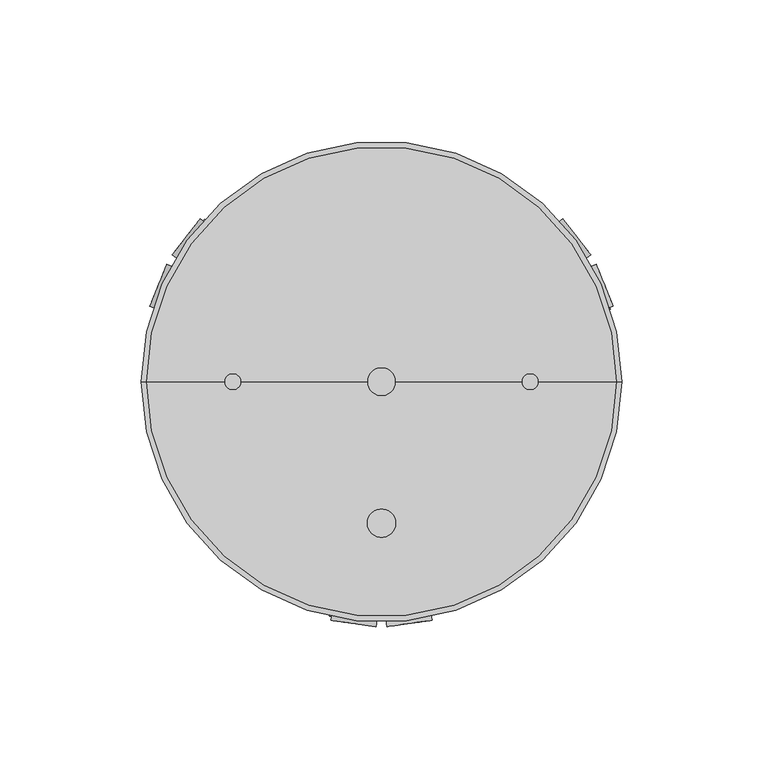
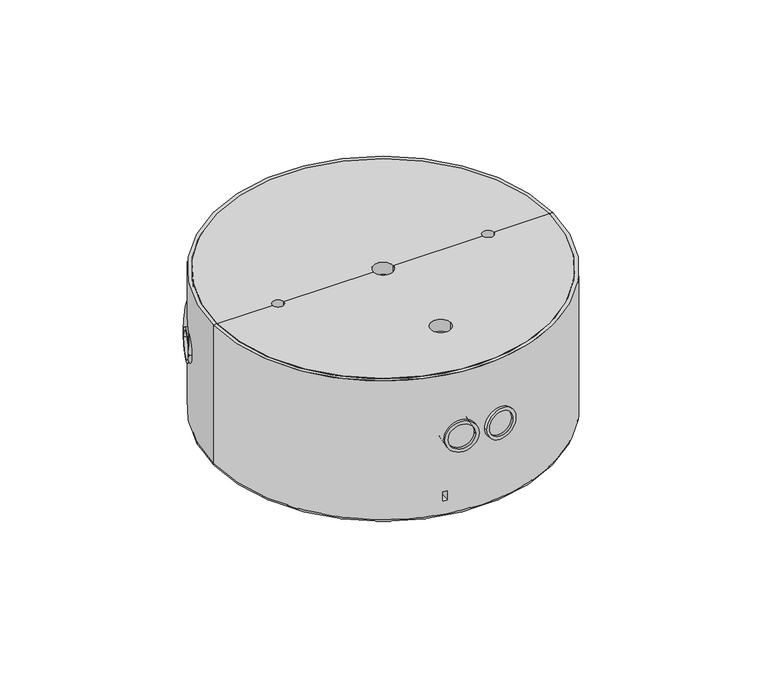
"""IFC4 building model written with IfcOpenShell, lengths in millimetres: proxy geometry, DL-A 10-165_T-EN54 : DL-A 10-165/T-EN54 SKD."""

from ifc_helpers import new_model, si_unit, point, frame, frame_2d, origin, place, context, project, spatial, polyline, circle_curve, ellipse_curve, trimmed, segment, composite_curve, outline, extrude, source, transform, mapped, element, save
from ifc_brep_helpers import plane_surface, cylinder_surface, revolved_surface, advanced_brep


def communication_devices_d300471b(model_context):
    return source(origin(), model_context, "Body", "SolidModel", [
        extrude(outline(composite_curve([segment(trimmed(circle_curve(frame_2d((0.0, 6.4)), 8.0), [point((0.0, 14.4))], [point((0.0, -1.6))], False, "CARTESIAN"), True, "CONTINUOUS"), segment(trimmed(circle_curve(frame_2d((0.0, 6.4)), 8.0), [point((0.0, -1.6))], [point((0.0, 14.4))], False, "CARTESIAN"), True, "CONTINUOUS")], self_intersect=False), holes=[composite_curve([segment(trimmed(circle_curve(frame_2d((0.0, 6.4)), 6.4), [point((0.0, 12.8))], [point((0.0, 0.0))], True, "CARTESIAN"), True, "CONTINUOUS"), segment(trimmed(circle_curve(frame_2d((0.0, 6.4)), 6.4), [point((0.0, 0.0))], [point((0.0, 12.8))], True, "CARTESIAN"), True, "CONTINUOUS")], self_intersect=False)]), frame((73.5583047, 25.1034264, 41.3589597), z_axis=(0.927183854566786, 0.3746065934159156, 0.0), x_axis=(0.0, 0.0, -1.0)), (0.0, 0.0, 1.0), 8.4103356),
        extrude(outline(composite_curve([segment(trimmed(circle_curve(frame_2d((0.0, 6.4)), 8.0), [point((0.0, 14.4))], [point((0.0, -1.6))], False, "CARTESIAN"), True, "CONTINUOUS"), segment(trimmed(circle_curve(frame_2d((0.0, 6.4)), 8.0), [point((0.0, -1.6))], [point((0.0, 14.4))], False, "CARTESIAN"), True, "CONTINUOUS")], self_intersect=False), holes=[composite_curve([segment(trimmed(circle_curve(frame_2d((0.0, 6.4)), 6.4), [point((0.0, 12.8))], [point((0.0, 0.0))], True, "CARTESIAN"), True, "CONTINUOUS"), segment(trimmed(circle_curve(frame_2d((0.0, 6.4)), 6.4), [point((0.0, 0.0))], [point((0.0, 12.8))], True, "CARTESIAN"), True, "CONTINUOUS")], self_intersect=False)]), frame((-58.5193574, 51.1516474, 41.3589597), z_axis=(-0.7880107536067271, 0.6156614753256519, 0.0), x_axis=(0.0, 0.0, -1.0)), (0.0, 0.0, 1.0), 8.4103356),
        extrude(outline(composite_curve([segment(trimmed(circle_curve(frame_2d((0.0, 6.4000001)), 8.0), [point((0.0, 14.4))], [point((0.0, -1.6))], False, "CARTESIAN"), True, "CONTINUOUS"), segment(trimmed(circle_curve(frame_2d((0.0, 6.4000001)), 8.0), [point((0.0, -1.6))], [point((0.0, 14.4))], False, "CARTESIAN"), True, "CONTINUOUS")], self_intersect=False), holes=[composite_curve([segment(trimmed(circle_curve(frame_2d((0.0, 6.4000001)), 6.4), [point((0.0, 12.8))], [point((0.0, 0.0))], True, "CARTESIAN"), True, "CONTINUOUS"), segment(trimmed(circle_curve(frame_2d((0.0, 6.4000001)), 6.4), [point((0.0, 0.0))], [point((0.0, 12.8))], True, "CARTESIAN"), True, "CONTINUOUS")], self_intersect=False)]), frame((-16.2094399, -84.5835606, 41.3589597), z_axis=(0.13917310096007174, 0.9902680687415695, 0.0), x_axis=(0.0, 0.0, 1.0)), (0.0, 0.0, 1.0), 8.4103356),
        extrude(outline(composite_curve([segment(trimmed(circle_curve(frame_2d((0.0, 6.4)), 8.0), [point((0.0, 14.4))], [point((0.0, -1.6))], False, "CARTESIAN"), True, "CONTINUOUS"), segment(trimmed(circle_curve(frame_2d((0.0, 6.4)), 8.0), [point((0.0, -1.6))], [point((0.0, 14.4))], False, "CARTESIAN"), True, "CONTINUOUS")], self_intersect=False), holes=[composite_curve([segment(trimmed(circle_curve(frame_2d((0.0, 6.4)), 6.4), [point((0.0, 12.8))], [point((0.0, 0.0))], True, "CARTESIAN"), True, "CONTINUOUS"), segment(trimmed(circle_curve(frame_2d((0.0, 6.4)), 6.4), [point((0.0, 0.0))], [point((0.0, 12.8))], True, "CARTESIAN"), True, "CONTINUOUS")], self_intersect=False)]), frame((58.5193574, 51.1516474, 41.3589597), z_axis=(0.7880107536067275, 0.6156614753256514, 0.0), x_axis=(0.0, 0.0, 1.0)), (0.0, 0.0, 1.0), 8.4103356),
        extrude(outline(composite_curve([segment(trimmed(circle_curve(frame_2d((0.0, 6.4)), 8.0), [point((0.0, 14.4))], [point((0.0, -1.6))], False, "CARTESIAN"), True, "CONTINUOUS"), segment(trimmed(circle_curve(frame_2d((0.0, 6.4)), 8.0), [point((0.0, -1.6))], [point((0.0, 14.4))], False, "CARTESIAN"), True, "CONTINUOUS")], self_intersect=False), holes=[composite_curve([segment(trimmed(circle_curve(frame_2d((0.0, 6.4)), 6.4), [point((0.0, 12.8))], [point((0.0, 0.0))], True, "CARTESIAN"), True, "CONTINUOUS"), segment(trimmed(circle_curve(frame_2d((0.0, 6.4)), 6.4), [point((0.0, 0.0))], [point((0.0, 12.8))], True, "CARTESIAN"), True, "CONTINUOUS")], self_intersect=False)]), frame((-73.5583047, 25.1034264, 41.3589597), z_axis=(-0.9271838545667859, 0.3746065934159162, 0.0), x_axis=(0.0, 0.0, 1.0)), (0.0, 0.0, 1.0), 8.4103356),
        extrude(outline(composite_curve([segment(trimmed(circle_curve(frame_2d((0.0, 6.4000001)), 8.0), [point((0.0, 14.4))], [point((0.0, -1.6))], False, "CARTESIAN"), True, "CONTINUOUS"), segment(trimmed(circle_curve(frame_2d((0.0, 6.4000001)), 8.0), [point((0.0, -1.6))], [point((0.0, 14.4))], False, "CARTESIAN"), True, "CONTINUOUS")], self_intersect=False), holes=[composite_curve([segment(trimmed(circle_curve(frame_2d((0.0, 6.4000001)), 6.4), [point((0.0, 12.8))], [point((0.0, 0.0))], True, "CARTESIAN"), True, "CONTINUOUS"), segment(trimmed(circle_curve(frame_2d((0.0, 6.4000001)), 6.4), [point((0.0, 0.0))], [point((0.0, 12.8))], True, "CARTESIAN"), True, "CONTINUOUS")], self_intersect=False)]), frame((16.2094399, -84.5835606, 41.3589597), z_axis=(-0.13917310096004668, 0.990268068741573, 0.0), x_axis=(0.0, 0.0, -1.0)), (0.0, 0.0, 1.0), 8.4103356),
        advanced_brep(
        [(83.1008845, 0.0, 75.0), (-83.1008845, 0.0, 75.0), (-55.5276636, 0.0, 75.0), (-49.6947731, 0.0, 75.0), (-5.0, 0.0, 75.0), (5.0, 0.0, 75.0), (49.6947731, 0.0, 75.0), (55.5276636, 0.0, 75.0), (5.0, -50.0, 75.0), (-5.0, -50.0, 75.0), (83.1008845, 0.0, 25.0), (-83.1008845, 0.0, 25.0), (0.0, 0.0, 25.0), (-5.0, 0.0, 68.563781), (5.0, 0.0, 68.563781), (-5.0, -50.0, 68.563781), (5.0, -50.0, 68.563781), (-55.5276636, 0.0, 68.563781), (-49.6947731, 0.0, 68.563781), (55.5276636, 0.0, 68.563781), (49.6947731, 0.0, 68.563781)],
        [
            (0, 1, circle_curve(frame((0.0, 0.0, 75.0), z_axis=(0.0, 0.0, 1.0), x_axis=(-1.0, 0.0, 0.0)), 83.1008845)),
            (1, 2),
            (2, 3, circle_curve(frame((-52.6112183, 0.0, 75.0), z_axis=(0.0, 0.0, -1.0), x_axis=(1.0, 0.0, 0.0)), 2.9164453)),
            (3, 4),
            (4, 5, circle_curve(frame((0.0, 0.0, 75.0), z_axis=(0.0, 0.0, -1.0), x_axis=(1.0, 0.0, 0.0)), 5.0)),
            (5, 6),
            (6, 7, circle_curve(frame((52.6112183, 0.0, 75.0), z_axis=(0.0, 0.0, -1.0), x_axis=(-1.0, 0.0, 0.0)), 2.9164453)),
            (7, 0),
            (1, 0, circle_curve(frame((0.0, 0.0, 75.0), z_axis=(0.0, 0.0, 1.0), x_axis=(-1.0, 0.0, 0.0)), 83.1008845)),
            (7, 6, circle_curve(frame((52.6112183, 0.0, 75.0), z_axis=(0.0, 0.0, -1.0), x_axis=(-1.0, 0.0, 0.0)), 2.9164453)),
            (5, 4, circle_curve(frame((0.0, 0.0, 75.0), z_axis=(0.0, 0.0, -1.0), x_axis=(1.0, 0.0, 0.0)), 5.0)),
            (3, 2, circle_curve(frame((-52.6112183, 0.0, 75.0), z_axis=(0.0, 0.0, -1.0), x_axis=(1.0, 0.0, 0.0)), 2.9164453)),
            (8, 9, circle_curve(frame((0.0, -50.0, 75.0), z_axis=(0.0, 0.0, -1.0), x_axis=(1.0, 0.0, 0.0)), 5.0)),
            (9, 8, circle_curve(frame((0.0, -50.0, 75.0), z_axis=(0.0, 0.0, -1.0), x_axis=(1.0, 0.0, 0.0)), 5.0)),
            (0, 10),
            (10, 11, circle_curve(frame((0.0, 0.0, 25.0), z_axis=(0.0, 0.0, 1.0), x_axis=(-1.0, 0.0, 0.0)), 83.1008845)),
            (11, 1),
            (11, 10, circle_curve(frame((0.0, 0.0, 25.0), z_axis=(0.0, 0.0, 1.0), x_axis=(-1.0, 0.0, 0.0)), 83.1008845)),
            (10, 12),
            (12, 11),
            (13, 14, circle_curve(frame((0.0, 0.0, 68.563781), z_axis=(0.0, 0.0, 1.0), x_axis=(1.0, 0.0, 0.0)), 5.0)),
            (14, 13, circle_curve(frame((0.0, 0.0, 68.563781), z_axis=(0.0, 0.0, 1.0), x_axis=(1.0, 0.0, 0.0)), 5.0)),
            (15, 16, circle_curve(frame((0.0, -50.0, 68.563781), z_axis=(0.0, 0.0, 1.0), x_axis=(1.0, 0.0, 0.0)), 5.0)),
            (16, 15, circle_curve(frame((0.0, -50.0, 68.563781), z_axis=(0.0, 0.0, 1.0), x_axis=(1.0, 0.0, 0.0)), 5.0)),
            (17, 18, circle_curve(frame((-52.6112183, 0.0, 68.563781), z_axis=(0.0, 0.0, 1.0), x_axis=(1.0, 0.0, 0.0)), 2.9164453)),
            (18, 17, circle_curve(frame((-52.6112183, 0.0, 68.563781), z_axis=(0.0, 0.0, 1.0), x_axis=(1.0, 0.0, 0.0)), 2.9164453)),
            (19, 20, circle_curve(frame((52.6112183, 0.0, 68.563781), z_axis=(0.0, 0.0, 1.0), x_axis=(-1.0, 0.0, 0.0)), 2.9164453)),
            (20, 19, circle_curve(frame((52.6112183, 0.0, 68.563781), z_axis=(0.0, 0.0, 1.0), x_axis=(-1.0, 0.0, 0.0)), 2.9164453)),
            (13, 4),
            (5, 14),
            (15, 9),
            (8, 16),
            (17, 2),
            (3, 18),
            (19, 7),
            (6, 20),
        ],
        [
            plane_surface(frame((0.0, 0.0, 75.0), z_axis=(0.0, 0.0, 1.0), x_axis=(-1.0, 0.0, 0.0))),
            cylinder_surface(frame((0.0, 0.0, 60.0), z_axis=(0.0, 0.0, -1.0), x_axis=(-1.0, 0.0, 0.0)), 83.1008845),
            plane_surface(frame((0.0, 0.0, 25.0), z_axis=(0.0, 0.0, -1.0), x_axis=(-1.0, 0.0, 0.0))),
            plane_surface(frame((5.0, 0.0, 68.563781), z_axis=(0.0, 0.0, 1.0), x_axis=(0.0, -1.0, 0.0))),
            revolved_surface(polyline([(5.0, 0.0, 75.0), (5.0, 0.0, 68.563781)]), (0.0, 0.0, 68.563781), (0.0, 0.0, 1.0)),
            revolved_surface(polyline([(5.0, -50.0, 75.0), (5.0, -50.0, 68.563781)]), (0.0, -50.0, 0.0), (0.0, 0.0, 1.0)),
            revolved_surface(polyline([(-49.694773, 0.0, 75.0), (-49.694773, 0.0, 68.563781)]), (-52.6112183, 0.0, 0.0), (0.0, 0.0, 1.0)),
            revolved_surface(polyline([(49.694773, 0.0, 75.0), (49.694773, 0.0, 68.563781)]), (52.6112183, 0.0, 0.0), (0.0, 0.0, 1.0)),
        ],
        [
            (0, [[1, 2, 3, 4, 5, 6, 7, 8]]),
            (0, [[9, -8, 10, -6, 11, -4, 12, -2], [13, 14]]),
            (1, [[-1, 15, 16, 17]]),
            (1, [[-9, -17, 18, -15]]),
            (2, [[-16, 19, 20]]),
            (2, [[-18, -20, -19]]),
            (3, [[21, 22]]),
            (3, [[23, 24]]),
            (3, [[25, 26]]),
            (3, [[27, 28]]),
            (4, [[-21, 29, -11, 30]]),
            (4, [[-22, -30, -5, -29]]),
            (5, [[-23, 31, -13, 32]]),
            (5, [[-24, -32, -14, -31]]),
            (6, [[-25, 33, -12, 34]]),
            (6, [[-26, -34, -3, -33]]),
            (7, [[-27, 35, -7, 36]]),
            (7, [[-28, -36, -10, -35]]),
        ],
    ),
        advanced_brep(
        [(0.0, 0.0, 0.0), (-69.0225418, 0.0, 0.0), (69.0225418, 0.0, 0.0), (-70.0, 0.0, 0.9774582), (70.0, 0.0, 0.9774582), (-70.0, 0.0, 15.0), (70.0, 0.0, 15.0), (0.0, 0.0, 15.0)],
        [
            (0, 1),
            (1, 2, circle_curve(frame((0.0, 0.0, 0.0), z_axis=(0.0, 0.0, -1.0), x_axis=(-1.0, 0.0, 0.0)), 69.0225418)),
            (2, 0),
            (2, 1, circle_curve(frame((0.0, 0.0, 0.0), z_axis=(0.0, 0.0, -1.0), x_axis=(-1.0, 0.0, 0.0)), 69.0225418)),
            (1, 3, circle_curve(frame((-69.0225418, 0.0, 0.9774582), z_axis=(0.0, 1.0, 0.0), x_axis=(1.0, 0.0, 0.0)), 0.9774582)),
            (3, 4, circle_curve(frame((0.0, 0.0, 0.9774582), z_axis=(0.0, 0.0, -1.0), x_axis=(-1.0, 0.0, 0.0)), 70.0)),
            (4, 2, circle_curve(frame((69.0225418, 0.0, 0.9774582), z_axis=(0.0, 1.0, 0.0), x_axis=(-1.0, 0.0, 0.0)), 0.9774582)),
            (4, 3, circle_curve(frame((0.0, 0.0, 0.9774582), z_axis=(0.0, 0.0, -1.0), x_axis=(-1.0, 0.0, 0.0)), 70.0)),
            (3, 5),
            (5, 6, circle_curve(frame((0.0, 0.0, 15.0), z_axis=(0.0, 0.0, -1.0), x_axis=(-1.0, 0.0, 0.0)), 70.0)),
            (6, 4),
            (6, 5, circle_curve(frame((0.0, 0.0, 15.0), z_axis=(0.0, 0.0, -1.0), x_axis=(-1.0, 0.0, 0.0)), 70.0)),
            (5, 7),
            (7, 6),
        ],
        [
            plane_surface(frame((0.0, 0.0, 0.0), z_axis=(0.0, 0.0, -1.0), x_axis=(-1.0, 0.0, 0.0))),
            revolved_surface(trimmed(ellipse_curve(frame((-69.0225418, 0.0, 0.9774582), z_axis=(0.0, -1.0, 0.0), x_axis=(1.0, 0.0, 0.0)), 0.9774582, 0.9774582), [point((-70.0, 0.0, 0.9774582))], [point((-69.0225418, 0.0, 0.0))], True, "CARTESIAN"), (0.0, 0.0, 7.5), (0.0, 0.0, -1.0)),
            cylinder_surface(frame((0.0, 0.0, 7.5), z_axis=(0.0, 0.0, -1.0), x_axis=(-1.0, 0.0, 0.0)), 70.0),
            plane_surface(frame((0.0, 0.0, 15.0), z_axis=(0.0, 0.0, 1.0), x_axis=(-1.0, 0.0, 0.0))),
        ],
        [
            (0, [[1, 2, 3]]),
            (0, [[-3, 4, -1]]),
            (1, [[-2, 5, 6, 7]]),
            (1, [[-4, -7, 8, -5]]),
            (2, [[-6, 9, 10, 11]]),
            (2, [[-8, -11, 12, -9]]),
            (3, [[-10, 13, 14]]),
            (3, [[-12, -14, -13]]),
        ],
    ),
        advanced_brep(
        [(71.0, 0.0, 0.0), (-71.0, 0.0, 0.0), (-83.5, 0.0, 0.0), (83.5, 0.0, 0.0), (-85.0, 0.0, 1.5), (85.0, 0.0, 1.5), (-85.0, 0.0, 75.0), (85.0, 0.0, 75.0), (-62.669585, 57.424064, 13.619508), (-64.399204, 55.4774055, 13.619508), (-64.399204, 55.4774055, 8.619508), (-62.669585, 57.424064, 8.619508), (81.0654907, 25.5614206, 13.619508), (80.2444445, 28.0326439, 13.619508), (80.2444445, 28.0326439, 8.619508), (81.0654907, 25.5614206, 8.619508), (-18.3959057, -82.9854846, 13.619508), (-15.8452405, -83.5100494, 13.619508), (-15.8452405, -83.5100494, 8.619508), (-18.3959057, -82.9854846, 8.619508), (-83.1008845, 0.0, 75.0), (83.1008845, 0.0, 75.0), (0.0, 0.0, 15.0), (-70.0, 0.0, 15.0), (70.0, 0.0, 15.0), (-70.0, 0.0, 1.0), (70.0, 0.0, 1.0), (83.1008845, 0.0, 25.0), (-83.1008845, 0.0, 25.0), (0.0, 0.0, 25.0), (-15.8452405, -73.2496508, 13.619508), (-18.3959057, -73.2496508, 13.619508), (-18.3959057, -73.2496508, 8.619508), (-15.8452405, -73.2496508, 8.619508), (-55.5134381, 50.3472062, 13.619508), (-54.2381056, 52.5561471, 13.619508), (-54.2381056, 52.5561471, 8.619508), (-55.5134381, 50.3472062, 8.619508), (71.3586787, 22.9024446, 13.619508), (72.6340113, 20.6935037, 13.619508), (72.6340113, 20.6935037, 8.619508), (71.3586787, 22.9024446, 8.619508)],
        [
            (0, 1, circle_curve(frame((0.0, 0.0, 0.0), z_axis=(0.0, 0.0, 1.0), x_axis=(-1.0, 0.0, 0.0)), 71.0)),
            (1, 2),
            (2, 3, circle_curve(frame((0.0, 0.0, 0.0), z_axis=(0.0, 0.0, -1.0), x_axis=(-1.0, 0.0, 0.0)), 83.5)),
            (3, 0),
            (1, 0, circle_curve(frame((0.0, 0.0, 0.0), z_axis=(0.0, 0.0, 1.0), x_axis=(-1.0, 0.0, 0.0)), 71.0)),
            (3, 2, circle_curve(frame((0.0, 0.0, 0.0), z_axis=(0.0, 0.0, -1.0), x_axis=(-1.0, 0.0, 0.0)), 83.5)),
            (2, 4, circle_curve(frame((-83.5, 0.0, 1.5), z_axis=(0.0, 1.0, 0.0), x_axis=(1.0, 0.0, 0.0)), 1.5)),
            (4, 5, circle_curve(frame((0.0, 0.0, 1.5), z_axis=(0.0, 0.0, -1.0), x_axis=(-1.0, 0.0, 0.0)), 85.0)),
            (5, 3, circle_curve(frame((83.5, 0.0, 1.5), z_axis=(0.0, 1.0, 0.0), x_axis=(-1.0, 0.0, 0.0)), 1.5)),
            (5, 4, circle_curve(frame((0.0, 0.0, 1.5), z_axis=(0.0, 0.0, -1.0), x_axis=(-1.0, 0.0, 0.0)), 85.0)),
            (4, 6),
            (6, 7, circle_curve(frame((0.0, 0.0, 75.0), z_axis=(0.0, 0.0, -1.0), x_axis=(-1.0, 0.0, 0.0)), 85.0)),
            (7, 5),
            (8, 9, circle_curve(frame((0.0, 0.0, 13.619508), z_axis=(0.0, 0.0, 1.0), x_axis=(-1.0, 0.0, 0.0)), 85.0)),
            (9, 10),
            (10, 11, circle_curve(frame((0.0, 0.0, 8.619508), z_axis=(0.0, 0.0, -1.0), x_axis=(-1.0, 0.0, 0.0)), 85.0)),
            (11, 8),
            (12, 13, circle_curve(frame((0.0, 0.0, 13.619508), z_axis=(0.0, 0.0, 1.0), x_axis=(-1.0, 0.0, 0.0)), 85.0)),
            (13, 14),
            (14, 15, circle_curve(frame((0.0, 0.0, 8.619508), z_axis=(0.0, 0.0, -1.0), x_axis=(-1.0, 0.0, 0.0)), 85.0)),
            (15, 12),
            (7, 6, circle_curve(frame((0.0, 0.0, 75.0), z_axis=(0.0, 0.0, -1.0), x_axis=(-1.0, 0.0, 0.0)), 85.0)),
            (16, 17, circle_curve(frame((0.0, 0.0, 13.619508), z_axis=(0.0, 0.0, 1.0), x_axis=(-1.0, 0.0, 0.0)), 85.0)),
            (17, 18),
            (18, 19, circle_curve(frame((0.0, 0.0, 8.619508), z_axis=(0.0, 0.0, -1.0), x_axis=(-1.0, 0.0, 0.0)), 85.0)),
            (19, 16),
            (6, 20),
            (20, 21, circle_curve(frame((0.0, 0.0, 75.0), z_axis=(0.0, 0.0, -1.0), x_axis=(-1.0, 0.0, 0.0)), 83.1008845)),
            (21, 7),
            (21, 20, circle_curve(frame((0.0, 0.0, 75.0), z_axis=(0.0, 0.0, -1.0), x_axis=(-1.0, 0.0, 0.0)), 83.1008845)),
            (22, 23),
            (23, 24, circle_curve(frame((0.0, 0.0, 15.0), z_axis=(0.0, 0.0, -1.0), x_axis=(-1.0, 0.0, 0.0)), 70.0)),
            (24, 22),
            (24, 23, circle_curve(frame((0.0, 0.0, 15.0), z_axis=(0.0, 0.0, -1.0), x_axis=(-1.0, 0.0, 0.0)), 70.0)),
            (23, 25),
            (25, 26, circle_curve(frame((0.0, 0.0, 1.0), z_axis=(0.0, 0.0, -1.0), x_axis=(-1.0, 0.0, 0.0)), 70.0)),
            (26, 24),
            (26, 25, circle_curve(frame((0.0, 0.0, 1.0), z_axis=(0.0, 0.0, -1.0), x_axis=(-1.0, 0.0, 0.0)), 70.0)),
            (0, 26, circle_curve(frame((71.0, 0.0, 1.0), z_axis=(0.0, 1.0, 0.0), x_axis=(-1.0, 0.0, 0.0)), 1.0)),
            (25, 1, circle_curve(frame((-71.0, 0.0, 1.0), z_axis=(0.0, 1.0, 0.0), x_axis=(1.0, 0.0, 0.0)), 1.0)),
            (27, 28, circle_curve(frame((0.0, 0.0, 25.0), z_axis=(0.0, 0.0, 1.0), x_axis=(-1.0, 0.0, 0.0)), 83.1008845)),
            (28, 29),
            (29, 27),
            (28, 27, circle_curve(frame((0.0, 0.0, 25.0), z_axis=(0.0, 0.0, 1.0), x_axis=(-1.0, 0.0, 0.0)), 83.1008845)),
            (20, 28),
            (27, 21),
            (30, 31),
            (31, 32),
            (32, 33),
            (33, 30),
            (30, 17),
            (16, 31),
            (19, 32),
            (18, 33),
            (34, 35),
            (35, 36),
            (36, 37),
            (37, 34),
            (34, 9),
            (8, 35),
            (11, 36),
            (10, 37),
            (38, 39),
            (39, 40),
            (40, 41),
            (41, 38),
            (38, 13),
            (12, 39),
            (15, 40),
            (14, 41),
        ],
        [
            plane_surface(frame((0.0, 0.0, 0.0), z_axis=(0.0, 0.0, -1.0), x_axis=(-1.0, 0.0, 0.0))),
            revolved_surface(trimmed(ellipse_curve(frame((-83.5, 0.0, 1.5), z_axis=(0.0, -1.0, 0.0), x_axis=(1.0, 0.0, 0.0)), 1.5, 1.5), [point((-85.0, 0.0, 1.5))], [point((-83.5, 0.0, 0.0))], True, "CARTESIAN"), (0.0, 0.0, 10.0), (0.0, 0.0, -1.0)),
            cylinder_surface(frame((0.0, 0.0, 10.0), z_axis=(0.0, 0.0, -1.0), x_axis=(-1.0, 0.0, 0.0)), 85.0),
            plane_surface(frame((0.0, 0.0, 75.0), z_axis=(0.0, 0.0, 1.0), x_axis=(-1.0, 0.0, 0.0))),
            plane_surface(frame((0.0, 0.0, 15.0), z_axis=(0.0, 0.0, -1.0), x_axis=(-1.0, 0.0, 0.0))),
            revolved_surface(polyline([(-70.0, 0.0, 1.0), (-70.0, 0.0, 15.0)]), (0.0, 0.0, 10.0), (0.0, 0.0, -1.0)),
            revolved_surface(trimmed(ellipse_curve(frame((-71.0, 0.0, 1.0), z_axis=(0.0, -1.0, 0.0), x_axis=(1.0, 0.0, 0.0)), 1.0, 1.0), [point((-71.0, 0.0, 0.0))], [point((-70.0, 0.0, 1.0))], True, "CARTESIAN"), (0.0, 0.0, 10.0), (0.0, 0.0, -1.0)),
            plane_surface(frame((0.0, 0.0, 25.0), z_axis=(0.0, 0.0, 1.0), x_axis=(-1.0, 0.0, 0.0))),
            revolved_surface(polyline([(-83.1008845, 0.0, 25.0), (-83.1008845, 0.0, 75.0)]), (0.0, 0.0, 10.0), (0.0, 0.0, -1.0)),
            plane_surface(frame((-18.3959057, -73.2496508, 13.619508), z_axis=(0.0, -1.0, 0.0), x_axis=(1.0, 0.0, 0.0))),
            plane_surface(frame((-15.8452405, -88.4682271, 13.619508), z_axis=(0.0, 0.0, -1.0), x_axis=(0.0, 1.0, 0.0))),
            plane_surface(frame((-18.3959057, -88.4682271, 13.619508), z_axis=(1.0, 0.0, 0.0), x_axis=(0.0, 1.0, 0.0))),
            plane_surface(frame((-18.3959057, -88.4682271, 8.619508), z_axis=(0.0, 0.0, 1.0), x_axis=(0.0, 1.0, 0.0))),
            plane_surface(frame((-15.8452405, -88.4682271, 8.619508), z_axis=(-1.0, 0.0, 0.0), x_axis=(0.0, 1.0, 0.0))),
            plane_surface(frame((-54.2381056, 52.5561471, 13.619508), z_axis=(-0.8660254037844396, 0.49999999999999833, 0.0), x_axis=(-0.49999999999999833, -0.8660254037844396, 0.0))),
            plane_surface(frame((-68.6931118, 57.9564944, 13.619508), z_axis=(0.0, 0.0, -1.0), x_axis=(0.8660254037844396, -0.4999999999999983, 0.0))),
            plane_surface(frame((-67.4177792, 60.1654352, 13.619508), z_axis=(-0.4999999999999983, -0.8660254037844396, 0.0), x_axis=(0.8660254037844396, -0.4999999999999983, 0.0))),
            plane_surface(frame((-67.4177792, 60.1654352, 8.619508), z_axis=(0.0, 0.0, 1.0), x_axis=(0.8660254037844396, -0.4999999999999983, 0.0))),
            plane_surface(frame((-68.6931118, 57.9564944, 8.619508), z_axis=(0.4999999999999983, 0.8660254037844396, 0.0), x_axis=(0.8660254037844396, -0.4999999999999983, 0.0))),
            plane_surface(frame((72.6340113, 20.6935037, 13.619508), z_axis=(0.8660254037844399, 0.49999999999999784, 0.0), x_axis=(-0.49999999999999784, 0.8660254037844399, 0.0))),
            plane_surface(frame((84.5383523, 30.5117327, 13.619508), z_axis=(0.0, 0.0, -1.0), x_axis=(-0.86602540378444, -0.4999999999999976, 0.0))),
            plane_surface(frame((85.8136849, 28.3027919, 13.619508), z_axis=(-0.49999999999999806, 0.8660254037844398, 0.0), x_axis=(-0.8660254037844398, -0.49999999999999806, 0.0))),
            plane_surface(frame((85.8136849, 28.3027919, 8.619508), z_axis=(0.0, 0.0, 1.0), x_axis=(-0.8660254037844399, -0.49999999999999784, 0.0))),
            plane_surface(frame((84.5383523, 30.5117327, 8.619508), z_axis=(0.49999999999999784, -0.8660254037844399, 0.0), x_axis=(-0.8660254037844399, -0.49999999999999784, 0.0))),
        ],
        [
            (0, [[1, 2, 3, 4]]),
            (0, [[-2, 5, -4, 6]]),
            (1, [[-3, 7, 8, 9]]),
            (1, [[-6, -9, 10, -7]]),
            (2, [[-8, 11, 12, 13], [14, 15, 16, 17], [18, 19, 20, 21]]),
            (2, [[-10, -13, 22, -11], [23, 24, 25, 26]]),
            (3, [[-12, 27, 28, 29]]),
            (3, [[-22, -29, 30, -27]]),
            (4, [[31, 32, 33]]),
            (4, [[-31, -33, 34]]),
            (5, [[-32, 35, 36, 37]]),
            (5, [[-34, -37, 38, -35]]),
            (6, [[-1, 39, -36, 40]]),
            (6, [[-5, -40, -38, -39]]),
            (7, [[41, 42, 43]]),
            (7, [[-42, 44, -43]]),
            (8, [[-28, 45, -41, 46]]),
            (8, [[-30, -46, -44, -45]]),
            (9, [[47, 48, 49, 50]]),
            (10, [[-47, 51, -23, 52]]),
            (11, [[-48, -52, -26, 53]]),
            (12, [[-49, -53, -25, 54]]),
            (13, [[-50, -54, -24, -51]]),
            (14, [[55, 56, 57, 58]]),
            (15, [[-55, 59, -14, 60]]),
            (16, [[-56, -60, -17, 61]]),
            (17, [[-57, -61, -16, 62]]),
            (18, [[-58, -62, -15, -59]]),
            (19, [[63, 64, 65, 66]]),
            (20, [[-63, 67, -18, 68]]),
            (21, [[-64, -68, -21, 69]]),
            (22, [[-65, -69, -20, 70]]),
            (23, [[-66, -70, -19, -67]]),
        ],
    ),
    ])


if __name__ == "__main__":
    model = new_model("IFC4")
    model_context = context("Model", 3, world=origin())
    ifc_project = project(units=[si_unit("LENGTHUNIT", "METRE", prefix="MILLI")], contexts=[model_context])
    site = spatial("IfcSite", under=ifc_project)
    building = spatial("IfcBuilding", under=site)
    placement = place(None, origin())
    communication_devices_shape = communication_devices_d300471b(model_context)
    element("IfcBuildingElementProxy", 1, Name="DL-A 10-165_T-EN54 : DL-A 10-165/T-EN54 SKD", ObjectType="DL-A 10-165_T-EN54 : DL-A 10-165/T-EN54 SKD", at=placement, inside=building, context=model_context, shape_type="MappedRepresentation", body=[
        mapped(communication_devices_shape, transform((0.0, 0.0, 0.0), x_axis=(1.0, 0.0, 0.0), y_axis=(0.0, 1.0, 0.0), z_axis=(0.0, 0.0, 1.0))),
    ])
    save(model, "model.ifc")
